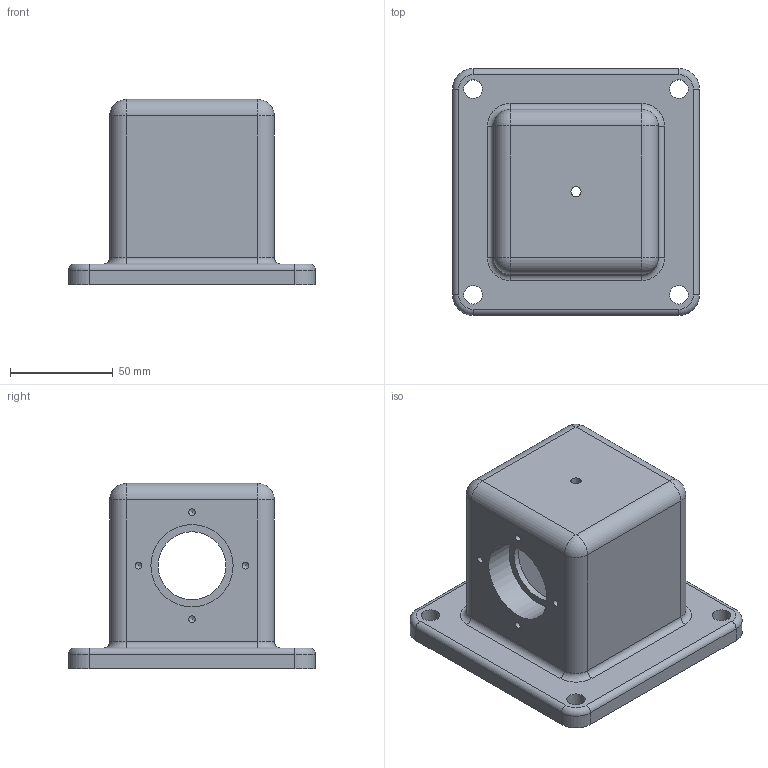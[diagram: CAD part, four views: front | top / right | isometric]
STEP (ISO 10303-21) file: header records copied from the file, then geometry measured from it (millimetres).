
FILE_DESCRIPTION(/* description */ (''),/* implementation_level */ '2;1');
FILE_NAME(/* name */ 'C:\Users\now\Desktop\381109E1018\381109E1018.stp',/* time_stamp */ '2018-11-10T11:10:59+09:00',/* author */ ('now'),/* organization */ (''),/* preprocessor_version */ 'ST-DEVELOPER v15.6',/* originating_system */ 'Autodesk Inventor 2015',/* authorisation */ '');
FILE_SCHEMA (('AUTOMOTIVE_DESIGN { 1 0 10303 214 3 1 1 }'));
Length unit declared in the file: millimetre
Products named in the file (1): 부품2
Bounding box: 120 x 120 x 90 mm (x, y, z)
Volume: 382751.5 mm3; surface area: 74411.8 mm2
Topology: 1 solids, 1 shells, 87 faces, 200 edges, 119 vertices
Faces by surface type: cylinder 45, plane 18, sphere 8, cone 8, torus 8
Full cylindrical faces by diameter (mm): 3.242 x8, 4.917 x1, 9 x4, 33 x2, 40 x2
Entity records: 2258 total; most frequent: DIRECTION 436, CARTESIAN_POINT 356, ORIENTED_EDGE 324, AXIS2_PLACEMENT_3D 186, EDGE_CURVE 162, EDGE_LOOP 130, VERTEX_POINT 106, CIRCLE 98
